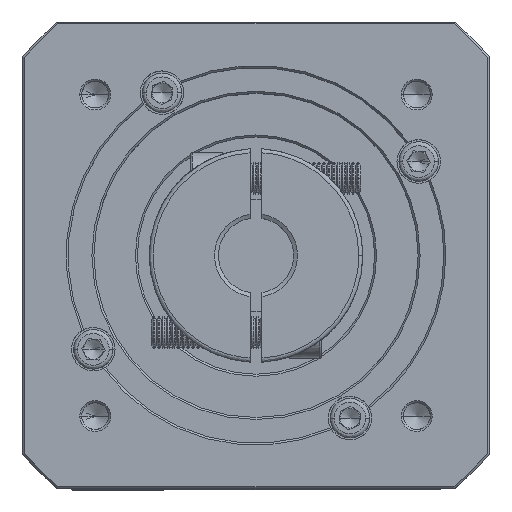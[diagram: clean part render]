
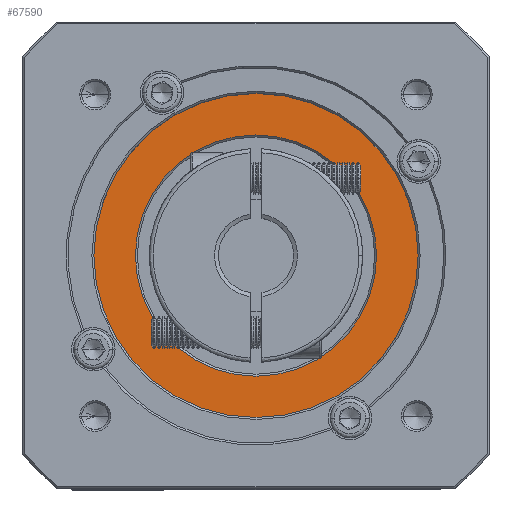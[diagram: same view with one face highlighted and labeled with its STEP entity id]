
A CAD part, top view. The second image highlights one B-rep face of the part: STEP entity #67590.
In plain terms, the highlighted planar face has unit normal (0, 0, 1).
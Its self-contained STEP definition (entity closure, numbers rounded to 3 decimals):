
#4786 = DIRECTION ( 'NONE',  ( 1., 0., 0. ) ) ;
#8194 = AXIS2_PLACEMENT_3D ( 'NONE', #74126, #48726, #56955 ) ;
#8503 = EDGE_CURVE ( 'NONE', #22824, #90572, #51083, .T. ) ;
#9520 = AXIS2_PLACEMENT_3D ( 'NONE', #81678, #30526, #49502 ) ;
#11884 = CARTESIAN_POINT ( 'NONE',  ( 72.343, -80.873, -54.022 ) ) ;
#17424 = CARTESIAN_POINT ( 'NONE',  ( 72.343, -80.873, -54.022 ) ) ;
#22598 = ORIENTED_EDGE ( 'NONE', *, *, #26492, .T. ) ;
#22824 = VERTEX_POINT ( 'NONE', #61384 ) ;
#26093 = VERTEX_POINT ( 'NONE', #77728 ) ;
#26492 = EDGE_CURVE ( 'NONE', #84997, #26093, #32565, .T. ) ;
#28712 = PLANE ( 'NONE',  #36729 ) ;
#29084 = AXIS2_PLACEMENT_3D ( 'NONE', #17424, #94682, #52472 ) ;
#30526 = DIRECTION ( 'NONE',  ( 0., 0., -1. ) ) ;
#32397 = ORIENTED_EDGE ( 'NONE', *, *, #33503, .T. ) ;
#32565 = CIRCLE ( 'NONE', #9520, 30.5 ) ;
#33503 = EDGE_CURVE ( 'NONE', #26093, #84997, #51771, .T. ) ;
#34589 = EDGE_LOOP ( 'NONE', ( #32397, #22598 ) ) ;
#36729 = AXIS2_PLACEMENT_3D ( 'NONE', #11884, #71567, #79425 ) ;
#39166 = EDGE_LOOP ( 'NONE', ( #51685, #56060 ) ) ;
#42096 = FACE_BOUND ( 'NONE', #34589, .T. ) ;
#44787 = FACE_OUTER_BOUND ( 'NONE', #39166, .T. ) ;
#48726 = DIRECTION ( 'NONE',  ( 0., 0., -1. ) ) ;
#49502 = DIRECTION ( 'NONE',  ( 0., -1., 0. ) ) ;
#51083 = CIRCLE ( 'NONE', #29084, 41. ) ;
#51685 = ORIENTED_EDGE ( 'NONE', *, *, #61375, .T. ) ;
#51771 = CIRCLE ( 'NONE', #8194, 30.5 ) ;
#52472 = DIRECTION ( 'NONE',  ( 1., 0., 0. ) ) ;
#55943 = CARTESIAN_POINT ( 'NONE',  ( 72.343, -80.873, -54.022 ) ) ;
#56060 = ORIENTED_EDGE ( 'NONE', *, *, #8503, .T. ) ;
#56955 = DIRECTION ( 'NONE',  ( 0., -1., 0. ) ) ;
#61375 = EDGE_CURVE ( 'NONE', #90572, #22824, #104873, .T. ) ;
#61384 = CARTESIAN_POINT ( 'NONE',  ( 31.343, -80.873, -54.022 ) ) ;
#63284 = CARTESIAN_POINT ( 'NONE',  ( 72.343, -50.373, -54.022 ) ) ;
#64452 = CARTESIAN_POINT ( 'NONE',  ( 113.343, -80.873, -54.022 ) ) ;
#67590 = ADVANCED_FACE ( 'NONE', ( #44787, #42096 ), #28712, .T. ) ;
#71567 = DIRECTION ( 'NONE',  ( 0., 0., 1. ) ) ;
#74126 = CARTESIAN_POINT ( 'NONE',  ( 72.343, -80.873, -54.022 ) ) ;
#77728 = CARTESIAN_POINT ( 'NONE',  ( 72.343, -111.373, -54.022 ) ) ;
#79425 = DIRECTION ( 'NONE',  ( 1., 0., 0. ) ) ;
#81678 = CARTESIAN_POINT ( 'NONE',  ( 72.343, -80.873, -54.022 ) ) ;
#84997 = VERTEX_POINT ( 'NONE', #63284 ) ;
#90572 = VERTEX_POINT ( 'NONE', #64452 ) ;
#94682 = DIRECTION ( 'NONE',  ( 0., 0., 1. ) ) ;
#96746 = AXIS2_PLACEMENT_3D ( 'NONE', #55943, #105955, #4786 ) ;
#104873 = CIRCLE ( 'NONE', #96746, 41. ) ;
#105955 = DIRECTION ( 'NONE',  ( 0., 0., 1. ) ) ;
